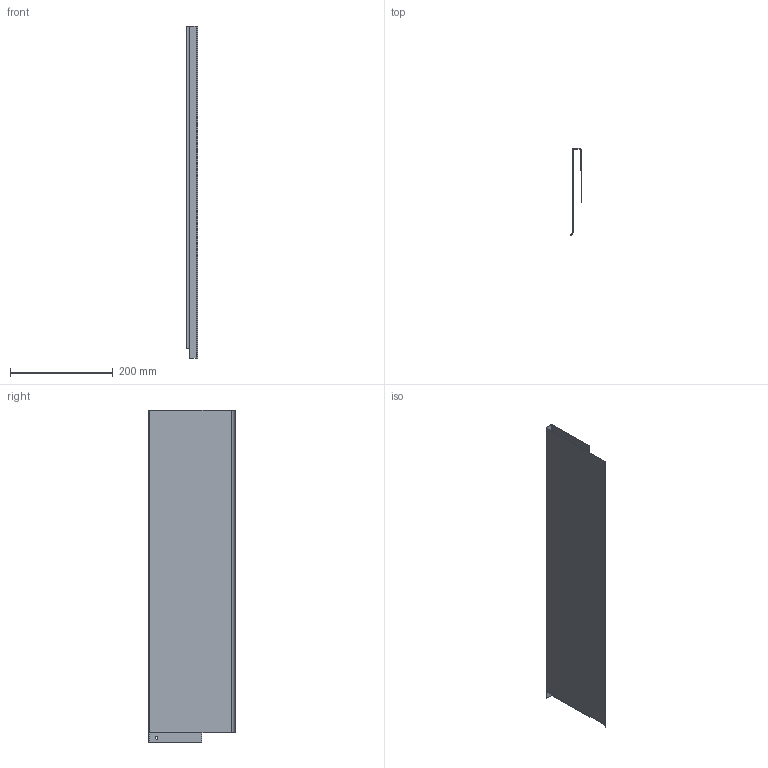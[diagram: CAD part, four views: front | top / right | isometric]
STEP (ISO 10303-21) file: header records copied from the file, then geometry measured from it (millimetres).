
FILE_DESCRIPTION (( 'STEP AP203' ), '1' );
FILE_NAME ('Nova Pro Duowing HRW H186 Deluxe rechts_NL650.step', '2014-02-14T12:21:02', ( 'test' ), ( '' ), 'SwSTEP 2.0', 'SolidWorks 2013', '' );
FILE_SCHEMA (( 'CONFIG_CONTROL_DESIGN' ));
Length unit declared in the file: millimetre
Products named in the file (1): Nova Pro Duowing HRW H186 Deluxe rechts_NL650
Bounding box: 21.82 x 169 x 647.5 mm (x, y, z)
Volume: 91733.9 mm3; surface area: 367878.9 mm2
Topology: 1 solids, 1 shells, 29 faces, 66 edges, 39 vertices
Faces by surface type: plane 20, cylinder 9
Entity records: 876 total; most frequent: CARTESIAN_POINT 147, DIRECTION 137, ORIENTED_EDGE 132, EDGE_CURVE 66, LINE 47, VECTOR 47, AXIS2_PLACEMENT_3D 45, VERTEX_POINT 39
